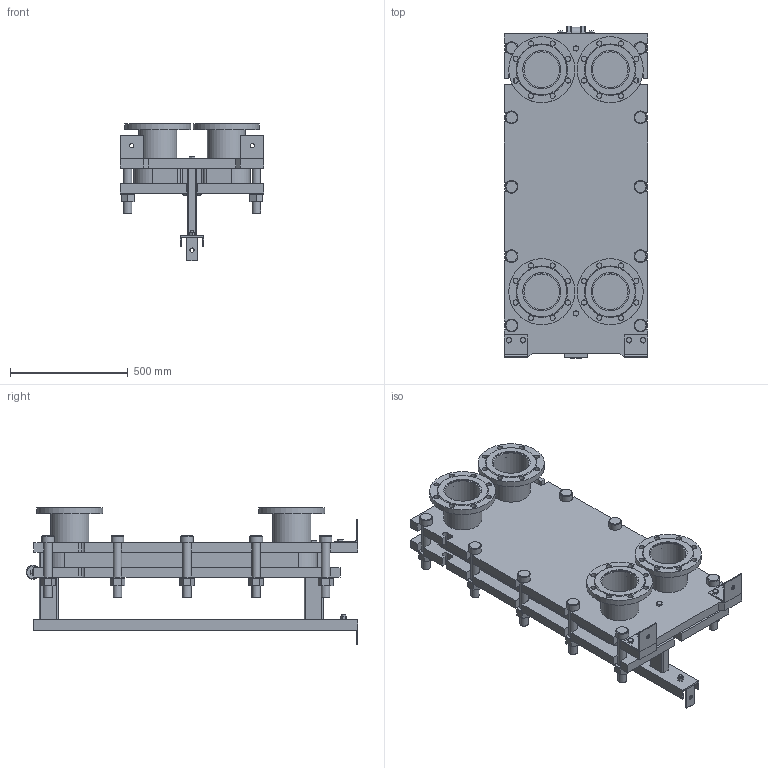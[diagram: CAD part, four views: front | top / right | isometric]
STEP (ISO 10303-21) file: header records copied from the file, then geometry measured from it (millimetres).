
FILE_DESCRIPTION(/* description */ (''),/* implementation_level */ '2;1');
FILE_NAME(/* name */ 'C:\Users\zhuro\Desktop\ENCO\TO\ЭН-041\ЭН-0,5-041-19-1.stp',/* time_stamp */ '2022-06-06T10:49:37+03:00',/* author */ ('zhuro'),/* organization */ (''),/* preprocessor_version */ 'ST-DEVELOPER v18.1',/* originating_system */ 'Autodesk Inventor 2022',/* authorisation */ '');
FILE_SCHEMA (('AUTOMOTIVE_DESIGN { 1 0 10303 214 3 1 1 }'));
Length unit declared in the file: millimetre
Products named in the file (1): ЭН-0,5-041-19-1
Bounding box: 610 x 1406.5 x 582.5 mm (x, y, z)
Volume: 111648838.3 mm3; surface area: 7238527.5 mm2
Topology: 52 solids, 52 shells, 711 faces, 1696 edges, 1094 vertices
Faces by surface type: plane 487, cylinder 177, cone 41, torus 6
Full cylindrical faces by diameter (mm): 8 x4, 10 x2, 16 x8, 18 x3, 22 x32, 36 x24, 50 x1, 54 x10, 60 x12, 151 x4, 161 x8, 280 x4
Entity records: 22667 total; most frequent: CARTESIAN_POINT 5230, DIRECTION 3644, ORIENTED_EDGE 3392, EDGE_CURVE 1696, AXIS2_PLACEMENT_3D 1272, LINE 1100, VECTOR 1100, VERTEX_POINT 1094
